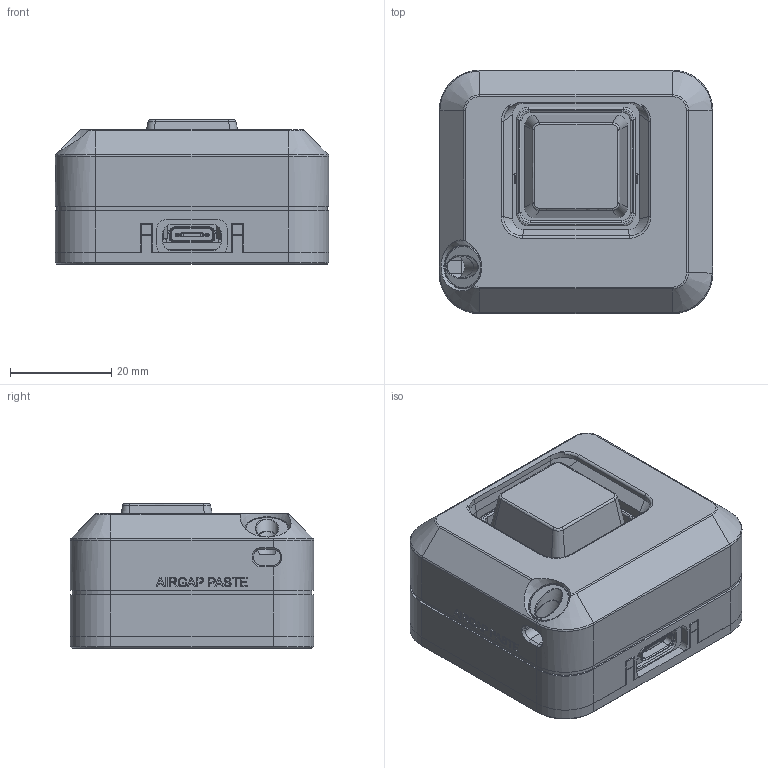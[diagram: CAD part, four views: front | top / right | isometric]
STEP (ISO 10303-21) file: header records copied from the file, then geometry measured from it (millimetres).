
FILE_DESCRIPTION(('Open CASCADE Model'),'2;1');
FILE_NAME('Open CASCADE Shape Model','2026-10-06T21:52:03',('Author'),( 'Open CASCADE'),'Open CASCADE STEP processor 7.9','Open CASCADE 7.9' ,'Unknown');
FILE_SCHEMA(('AUTOMOTIVE_DESIGN { 1 0 10303 214 1 1 1 1 }'));
Length unit declared in the file: millimetre
Products named in the file (13): AirGap_Paste_Pocket_Recess; 01_shell; 02_base; 03_keycap; 04_halo; 09_eye_bushing; 05_mx_plate; 07_xiao_wedge; 06_lightguide_left; 06_lightguide_right; XIAO_official_reference; Flat_FPC_antenna_envelope; MX_dimensional_envelope
Assembly tree (12 placements, depth 2):
  AirGap_Paste_Pocket_Recess
    01_shell
    02_base
    03_keycap
    04_halo
    09_eye_bushing
    05_mx_plate
    07_xiao_wedge
    06_lightguide_left
    06_lightguide_right
    XIAO_official_reference
    Flat_FPC_antenna_envelope
    MX_dimensional_envelope
Bounding box: 54 x 48 x 28.6 mm (x, y, z)
Volume: 29699.2 mm3; surface area: 33487 mm2
Topology: 49 solids, 54 shells, 1770 faces, 4580 edges, 2966 vertices
Faces by surface type: plane 1182, cylinder 315, bspline 110, extrusion 100, torus 29, cone 28, sphere 6
Full cylindrical faces by diameter (mm): 0.5 x3, 0.6 x2, 0.75 x14, 1.524 x8, 1.72 x1, 1.86 x1, 2 x2, 3.4 x6, 4.4 x2, 5.3 x1, 8.4 x1, 8.7 x1
Entity records: 118076 total; most frequent: CARTESIAN_POINT 28611, DIRECTION 15341, VECTOR 10397, LINE 10297, ORIENTED_EDGE 9144, PCURVE 9144, DEFINITIONAL_REPRESENTATION 9144, EDGE_CURVE 4572
